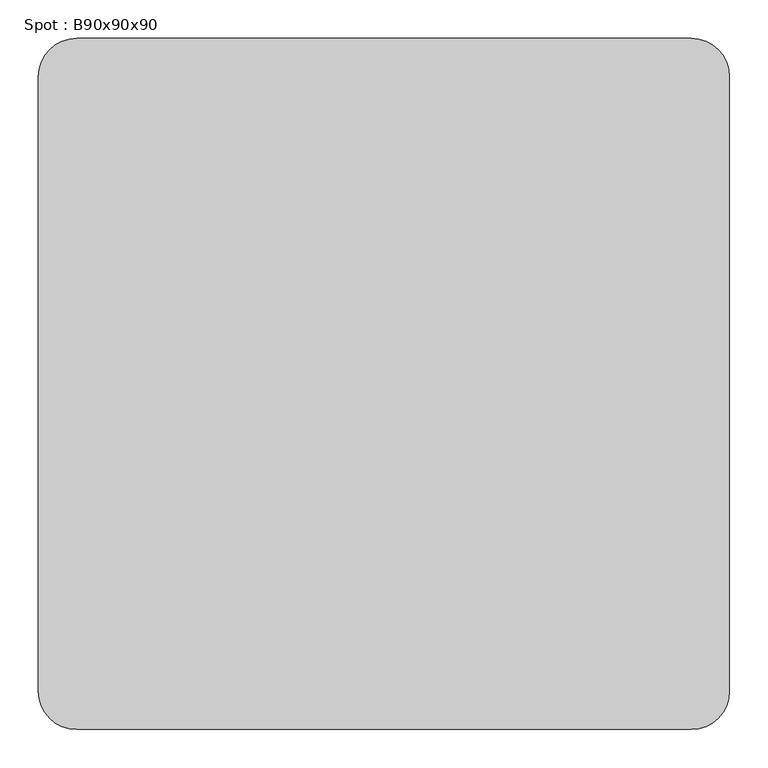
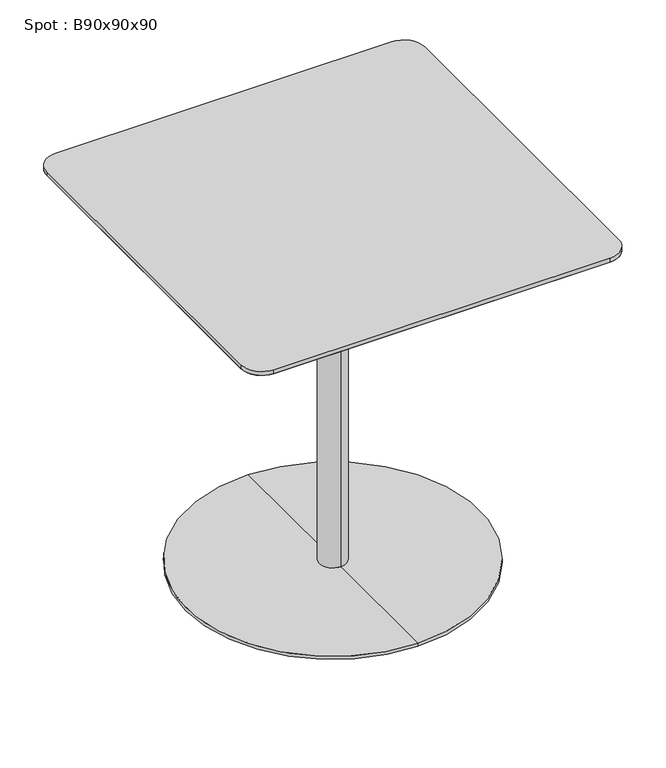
"""IFC4 building model written with IfcOpenShell, lengths in millimetres: furniture geometry, Spot : B90x90x90."""

from ifc_helpers import new_model, si_unit, point, frame, frame_2d, origin, place, context, project, spatial, polyline, circle_curve, trimmed, segment, composite_curve, outline, extrude, source, transform, mapped, element, save
from ifc_brep_helpers import plane_surface, cylinder_surface, revolved_surface, advanced_brep


def spot_b90x90x90_36fc2e03(model_context):
    return source(origin(), model_context, "Body", "SolidModel", [
        advanced_brep(
        [(-400.0, -400.0, 878.0), (-400.0, 400.0, 878.0), (400.0, 400.0, 878.0), (400.0, -400.0, 878.0), (-450.0, -400.0, 890.0), (-400.0, -450.0, 890.0), (400.0, -450.0, 890.0), (450.0, -400.0, 890.0), (450.0, 400.0, 890.0), (400.0, 450.0, 890.0), (-400.0, 450.0, 890.0), (-450.0, 400.0, 890.0)],
        [
            (0, 1),
            (1, 2),
            (2, 3),
            (3, 0),
            (4, 5, circle_curve(frame((-400.0, -400.0, 890.0), z_axis=(0.0, 0.0, 1.0), x_axis=(0.0, -1.0, 0.0)), 50.0)),
            (5, 6),
            (6, 7, circle_curve(frame((400.0, -400.0, 890.0), z_axis=(0.0, 0.0, 1.0), x_axis=(1.0, 0.0, 0.0)), 50.0)),
            (7, 8),
            (8, 9, circle_curve(frame((400.0, 400.0, 890.0), z_axis=(0.0, 0.0, 1.0), x_axis=(0.0, 1.0, 0.0)), 50.0)),
            (9, 10),
            (10, 11, circle_curve(frame((-400.0, 400.0, 890.0), z_axis=(0.0, 0.0, 1.0), x_axis=(-1.0, 0.0, 0.0)), 50.0)),
            (11, 4),
            (4, 0),
            (0, 5),
            (3, 6),
            (3, 7),
            (2, 8),
            (2, 9),
            (1, 10),
            (1, 11),
        ],
        [
            plane_surface(frame((0.0, 0.0, 878.0), z_axis=(0.0, 0.0, -1.0), x_axis=(-1.0, 0.0, 0.0))),
            plane_surface(frame((0.0, 0.0, 890.0), z_axis=(0.0, 0.0, 1.0), x_axis=(-1.0, 0.0, 0.0))),
            revolved_surface(polyline([(-400.0, -400.0, 878.0), (-400.0, -450.0, 890.0)]), (-400.0, -400.0, 878.0), (0.0, 0.0, 1.0)),
            plane_surface(frame((0.0, -450.0, 890.0), z_axis=(0.0, -0.23337295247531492, -0.9723873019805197), x_axis=(-1.0, 0.0, 0.0))),
            revolved_surface(polyline([(400.0, -400.0, 878.0), (450.0, -400.0, 890.0)]), (400.0, -400.0, 878.0), (0.0, 0.0, 1.0)),
            plane_surface(frame((450.0, 0.0, 890.0), z_axis=(0.23337295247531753, 0.0, -0.9723873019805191), x_axis=(0.0, -1.0, 0.0))),
            revolved_surface(polyline([(400.0, 400.0, 878.0), (400.0, 450.0, 890.0)]), (400.0, 400.0, 878.0), (0.0, 0.0, 1.0)),
            plane_surface(frame((0.0, 450.0, 890.0), z_axis=(0.0, 0.2333729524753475, -0.9723873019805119), x_axis=(1.0, 0.0, 0.0))),
            revolved_surface(polyline([(-400.0, 400.0, 878.0), (-450.0, 400.0, 890.0)]), (-400.0, 400.0, 878.0), (0.0, 0.0, 1.0)),
            plane_surface(frame((-450.0, 0.0, 890.0), z_axis=(-0.2333729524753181, 0.0, -0.9723873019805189), x_axis=(0.0, 1.0, 0.0))),
        ],
        [
            (0, [[1, 2, 3, 4]]),
            (1, [[5, 6, 7, 8, 9, 10, 11, 12]]),
            (2, [[-5, 13, 14]]),
            (3, [[-6, -14, -4, 15]]),
            (4, [[-7, -15, 16]]),
            (5, [[-8, -16, -3, 17]]),
            (6, [[-9, -17, 18]]),
            (7, [[-10, -18, -2, 19]]),
            (8, [[-11, -19, 20]]),
            (9, [[-12, -20, -1, -13]]),
        ],
    ),
        extrude(outline(composite_curve([segment(trimmed(circle_curve(frame_2d((400.0, 400.0)), 50.0), [point((400.0, 450.0))], [point((450.0, 400.0))], False, "CARTESIAN"), True, "CONTINUOUS"), segment(polyline([(450.0, 400.0), (450.0, -400.0)]), True, "CONTINUOUS"), segment(trimmed(circle_curve(frame_2d((400.0, -400.0)), 50.0), [point((450.0, -400.0))], [point((400.0, -450.0))], False, "CARTESIAN"), True, "CONTINUOUS"), segment(polyline([(400.0, -450.0), (-400.0, -450.0)]), True, "CONTINUOUS"), segment(trimmed(circle_curve(frame_2d((-400.0, -400.0)), 50.0), [point((-400.0, -450.0))], [point((-450.0, -400.0))], False, "CARTESIAN"), True, "CONTINUOUS"), segment(polyline([(-450.0, -400.0), (-450.0, 400.0)]), True, "CONTINUOUS"), segment(trimmed(circle_curve(frame_2d((-400.0, 400.0)), 50.0), [point((-450.0, 400.0))], [point((-400.0, 450.0))], False, "CARTESIAN"), True, "CONTINUOUS"), segment(polyline([(-400.0, 450.0), (400.0, 450.0)]), True, "CONTINUOUS")], self_intersect=False)), frame((0.0, 0.0, 890.0), z_axis=(0.0, 0.0, 1.0), x_axis=(1.0, 0.0, 0.0)), (0.0, 0.0, 1.0), 10.0),
        advanced_brep(
        [(0.0, 32.0, 10.0), (0.0, -32.0, 10.0), (0.0, -32.0, 847.406916), (0.0, 32.0, 847.406916), (0.0, 350.0, 10.0), (0.0, -350.0, 10.0), (0.0, 350.0, 2.0), (0.0, -350.0, 2.0), (0.0, 0.0, 2.0), (0.0, 150.0, 878.0), (0.0, -150.0, 878.0), (0.0, 0.0, 878.0), (0.0, 150.0, 866.7213673), (0.0, -150.0, 866.7213673)],
        [
            (0, 1, circle_curve(frame((0.0, 0.0, 10.0), z_axis=(0.0, 0.0, 1.0), x_axis=(0.0, -1.0, 0.0)), 32.0)),
            (1, 2),
            (2, 3, circle_curve(frame((0.0, 0.0, 847.406916), z_axis=(0.0, 0.0, -1.0), x_axis=(0.0, -1.0, 0.0)), 32.0)),
            (3, 0),
            (1, 0, circle_curve(frame((0.0, 0.0, 10.0), z_axis=(0.0, 0.0, 1.0), x_axis=(0.0, -1.0, 0.0)), 32.0)),
            (3, 2, circle_curve(frame((0.0, 0.0, 847.406916), z_axis=(0.0, 0.0, -1.0), x_axis=(0.0, -1.0, 0.0)), 32.0)),
            (4, 5, circle_curve(frame((0.0, 0.0, 10.0), z_axis=(0.0, 0.0, 1.0), x_axis=(0.0, -1.0, 0.0)), 350.0)),
            (5, 1),
            (0, 4),
            (5, 4, circle_curve(frame((0.0, 0.0, 10.0), z_axis=(0.0, 0.0, 1.0), x_axis=(0.0, -1.0, 0.0)), 350.0)),
            (6, 7, circle_curve(frame((0.0, 0.0, 2.0), z_axis=(0.0, 0.0, 1.0), x_axis=(0.0, -1.0, 0.0)), 350.0)),
            (7, 5),
            (4, 6),
            (7, 6, circle_curve(frame((0.0, 0.0, 2.0), z_axis=(0.0, 0.0, 1.0), x_axis=(0.0, -1.0, 0.0)), 350.0)),
            (8, 7),
            (6, 8),
            (9, 10, circle_curve(frame((0.0, 0.0, 878.0), z_axis=(0.0, 0.0, 1.0), x_axis=(0.0, -1.0, 0.0)), 150.0)),
            (10, 11),
            (11, 9),
            (10, 9, circle_curve(frame((0.0, 0.0, 878.0), z_axis=(0.0, 0.0, 1.0), x_axis=(0.0, -1.0, 0.0)), 150.0)),
            (12, 13, circle_curve(frame((0.0, 0.0, 866.7213673), z_axis=(0.0, 0.0, 1.0), x_axis=(0.0, -1.0, 0.0)), 150.0)),
            (13, 10),
            (9, 12),
            (13, 12, circle_curve(frame((0.0, 0.0, 866.7213673), z_axis=(0.0, 0.0, 1.0), x_axis=(0.0, -1.0, 0.0)), 150.0)),
            (2, 13),
            (12, 3),
        ],
        [
            cylinder_surface(frame((0.0, 0.0, 1240.0), z_axis=(0.0, 0.0, -1.0), x_axis=(0.0, -1.0, 0.0)), 32.0),
            plane_surface(frame((0.0, 0.0, 10.0), z_axis=(0.0, 0.0, 1.0), x_axis=(0.0, -1.0, 0.0))),
            cylinder_surface(frame((0.0, 0.0, 1240.0), z_axis=(0.0, 0.0, -1.0), x_axis=(0.0, -1.0, 0.0)), 350.0),
            plane_surface(frame((0.0, 0.0, 2.0), z_axis=(0.0, 0.0, -1.0), x_axis=(0.0, -1.0, 0.0))),
            plane_surface(frame((0.0, 0.0, 878.0), z_axis=(0.0, 0.0, 1.0), x_axis=(0.0, -1.0, 0.0))),
            cylinder_surface(frame((0.0, 0.0, 1240.0), z_axis=(0.0, 0.0, -1.0), x_axis=(0.0, -1.0, 0.0)), 150.0),
            revolved_surface(polyline([(0.0, -150.0, 866.7213673), (0.0, -32.0, 847.406916)]), (0.0, 0.0, 1240.0), (0.0, 0.0, -1.0)),
        ],
        [
            (0, [[1, 2, 3, 4]]),
            (0, [[5, -4, 6, -2]]),
            (1, [[7, 8, -1, 9]]),
            (1, [[10, -9, -5, -8]]),
            (2, [[11, 12, -7, 13]]),
            (2, [[14, -13, -10, -12]]),
            (3, [[15, -11, 16]]),
            (3, [[-16, -14, -15]]),
            (4, [[17, 18, 19]]),
            (4, [[20, -19, -18]]),
            (5, [[21, 22, -17, 23]]),
            (5, [[24, -23, -20, -22]]),
            (6, [[-3, 25, -21, 26]]),
            (6, [[-6, -26, -24, -25]]),
        ],
    ),
    ])


if __name__ == "__main__":
    model = new_model("IFC4")
    model_context = context("Model", 3, world=origin())
    ifc_project = project(units=[si_unit("LENGTHUNIT", "METRE", prefix="MILLI")], contexts=[model_context])
    site = spatial("IfcSite", under=ifc_project)
    building = spatial("IfcBuilding", under=site)
    placement = place(None, origin())
    spot_b90x90x90_shape = spot_b90x90x90_36fc2e03(model_context)
    element("IfcFurniture", 1, ObjectType="Spot : B90x90x90", at=placement, inside=building, context=model_context, shape_type="MappedRepresentation", body=[
        mapped(spot_b90x90x90_shape, transform((0.0, 0.0, 0.0), x_axis=(1.0, 0.0, 0.0), y_axis=(0.0, 1.0, 0.0), z_axis=(0.0, 0.0, 1.0))),
    ])
    save(model, "model.ifc")
